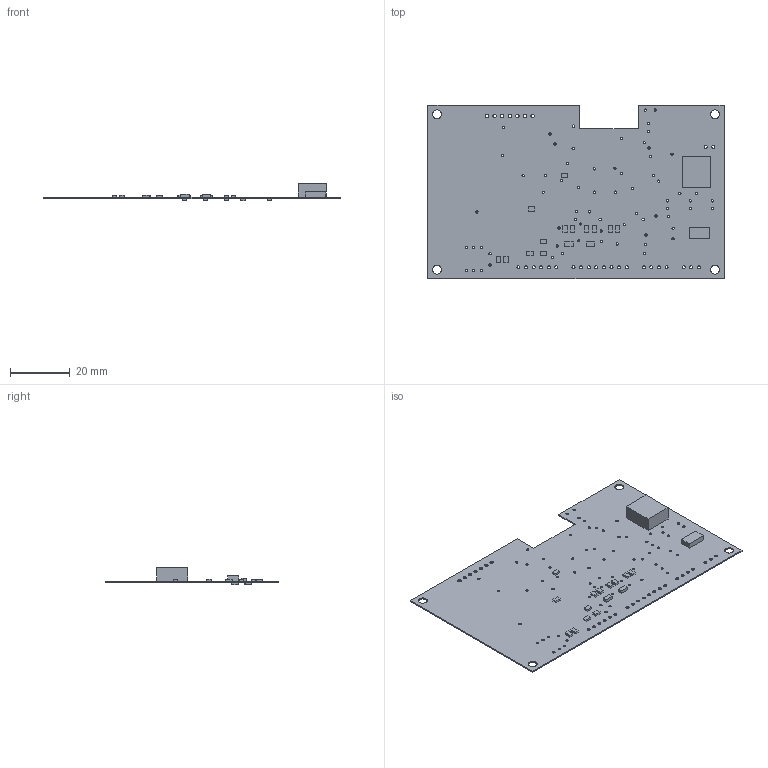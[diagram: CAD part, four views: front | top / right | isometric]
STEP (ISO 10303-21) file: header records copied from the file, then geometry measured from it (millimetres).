
FILE_DESCRIPTION(('Open CASCADE Model'),'2;1');
FILE_NAME('Open CASCADE Shape Model','2023-01-13T11:17:53',('Author'),( 'Open CASCADE'),'Open CASCADE STEP processor 7.5','Open CASCADE 7.5' ,'Unknown');
FILE_SCHEMA(('AUTOMOTIVE_DESIGN { 1 0 10303 214 1 1 1 1 }'));
Length unit declared in the file: millimetre
Products named in the file (39): PCB; Board; Open CASCADE STEP translator 7.5 1.1.1; D3; 6247390112; Extruded; C7; C6; 6247390592; R19; R18; D4; VR2; 6247389712; U1; 6247388272; R17; R16; R14; R13; R12; R11; R10; R9; R8; R7; R6; R5; R4; R3; R2; R1; Q4; 6247389072; Q3
Assembly tree (59 placements, depth 4):
  PCB
    Board
      Open CASCADE STEP translator 7.5 1.1.1
    D3
      6247390112
        Extruded
    C7
      6247390112
        Extruded
    C6
      6247390592
        Extruded
    R19
      6247390592
        Extruded
    R18
      6247390112
        Extruded
    D4
      6247390112
        Extruded
    VR2
      6247389712
        Extruded
    U1
      6247388272
        Extruded
    R17
      6247390592
        Extruded
    R16
      6247390592
        Extruded
    R14
      6247390112
        Extruded
    R13
      6247390592
        Extruded
    R12
      6247390592
        Extruded
    R11
      6247390592
        Extruded
    R10
      6247390592
        Extruded
    R9
      6247390592
        Extruded
    R8
      6247390592
        Extruded
    R7
      6247390592
        Extruded
    R6
      6247390592
        Extruded
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Bounding box: 99 x 58 x 5.76 mm (x, y, z)
Volume: 2818.9 mm3; surface area: 12008.8 mm2
Topology: 27 solids, 27 shells, 269 faces, 645 edges, 430 vertices
Faces by surface type: plane 166, cylinder 103
Full cylindrical faces by diameter (mm): 0.7 x4, 0.762 x65, 1.016 x23, 1.144 x7, 3 x4
Entity records: 5979 total; most frequent: DIRECTION 1005, CARTESIAN_POINT 858, ORIENTED_EDGE 786, AXIS2_PLACEMENT_3D 409, EDGE_CURVE 393, FACE_BOUND 349, EDGE_LOOP 349, VERTEX_POINT 262
